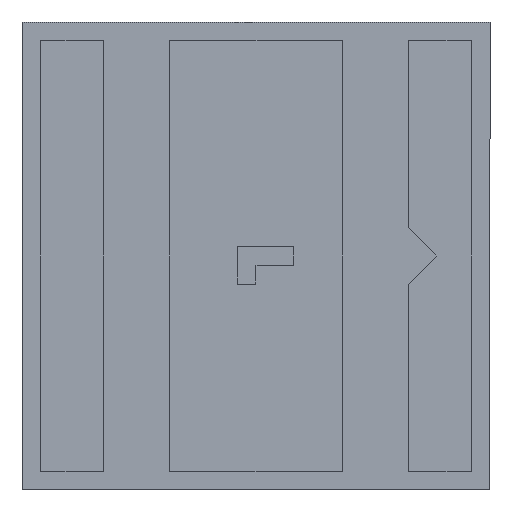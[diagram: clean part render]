
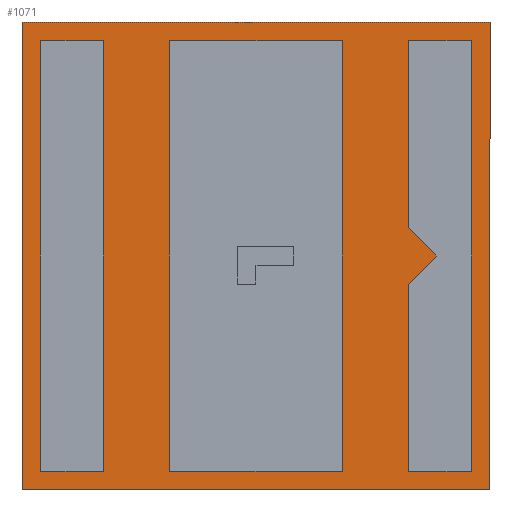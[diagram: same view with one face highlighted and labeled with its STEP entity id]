
A CAD part, front view. The second image highlights one B-rep face of the part: STEP entity #1071.
In plain terms, the highlighted planar face has unit normal (0, -1, 0).
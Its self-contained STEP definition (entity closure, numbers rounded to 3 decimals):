
#2 = EDGE_CURVE ( 'NONE', #236, #282, #96, .T. ) ;
#13 = VECTOR ( 'NONE', #824, 1000. ) ;
#16 = ORIENTED_EDGE ( 'NONE', *, *, #1043, .F. ) ;
#17 = VECTOR ( 'NONE', #942, 1000. ) ;
#18 = DIRECTION ( 'NONE',  ( 0., 0., 1. ) ) ;
#25 = FACE_BOUND ( 'NONE', #155, .T. ) ;
#36 = VERTEX_POINT ( 'NONE', #1123 ) ;
#43 = DIRECTION ( 'NONE',  ( 0., 0., -1. ) ) ;
#45 = ORIENTED_EDGE ( 'NONE', *, *, #116, .F. ) ;
#51 = CARTESIAN_POINT ( 'NONE',  ( -1.15, 0., -1.15 ) ) ;
#53 = EDGE_CURVE ( 'NONE', #674, #869, #243, .T. ) ;
#78 = EDGE_CURVE ( 'NONE', #36, #1203, #422, .T. ) ;
#88 = ORIENTED_EDGE ( 'NONE', *, *, #321, .F. ) ;
#90 = ORIENTED_EDGE ( 'NONE', *, *, #78, .F. ) ;
#91 = ORIENTED_EDGE ( 'NONE', *, *, #1055, .F. ) ;
#96 = LINE ( 'NONE', #280, #1169 ) ;
#116 = EDGE_CURVE ( 'NONE', #339, #709, #436, .T. ) ;
#120 = EDGE_CURVE ( 'NONE', #282, #1083, #954, .T. ) ;
#121 = DIRECTION ( 'NONE',  ( -0.707, 0., -0.707 ) ) ;
#126 = VERTEX_POINT ( 'NONE', #552 ) ;
#130 = VECTOR ( 'NONE', #480, 1000. ) ;
#155 = EDGE_LOOP ( 'NONE', ( #1187, #173, #201, #45 ) ) ;
#170 = ORIENTED_EDGE ( 'NONE', *, *, #910, .F. ) ;
#171 = VECTOR ( 'NONE', #269, 1000. ) ;
#173 = ORIENTED_EDGE ( 'NONE', *, *, #1192, .F. ) ;
#176 = DIRECTION ( 'NONE',  ( 0., 0., -1. ) ) ;
#177 = PLANE ( 'NONE',  #1142 ) ;
#180 = CARTESIAN_POINT ( 'NONE',  ( 0.46, 0., 1.15 ) ) ;
#185 = LINE ( 'NONE', #548, #703 ) ;
#192 = VECTOR ( 'NONE', #865, 1000. ) ;
#201 = ORIENTED_EDGE ( 'NONE', *, *, #526, .F. ) ;
#209 = CARTESIAN_POINT ( 'NONE',  ( 0.815, 0., 1.15 ) ) ;
#236 = VERTEX_POINT ( 'NONE', #209 ) ;
#243 = LINE ( 'NONE', #536, #17 ) ;
#244 = CARTESIAN_POINT ( 'NONE',  ( 0.965, 0., 0. ) ) ;
#258 = EDGE_CURVE ( 'NONE', #727, #518, #1082, .T. ) ;
#269 = DIRECTION ( 'NONE',  ( -1., 0., 0. ) ) ;
#275 = VECTOR ( 'NONE', #18, 1000. ) ;
#280 = CARTESIAN_POINT ( 'NONE',  ( 0.815, 0., 1.15 ) ) ;
#282 = VERTEX_POINT ( 'NONE', #1016 ) ;
#286 = CARTESIAN_POINT ( 'NONE',  ( 0.815, 0., -0.15 ) ) ;
#287 = DIRECTION ( 'NONE',  ( 0., 1., 0. ) ) ;
#294 = CARTESIAN_POINT ( 'NONE',  ( 0.815, 0., -1.15 ) ) ;
#298 = VERTEX_POINT ( 'NONE', #51 ) ;
#300 = FACE_BOUND ( 'NONE', #461, .T. ) ;
#302 = DIRECTION ( 'NONE',  ( -1., 0., 0. ) ) ;
#317 = CARTESIAN_POINT ( 'NONE',  ( 1.15, 0., -1.15 ) ) ;
#318 = VECTOR ( 'NONE', #121, 1000. ) ;
#321 = EDGE_CURVE ( 'NONE', #1054, #727, #439, .T. ) ;
#330 = LINE ( 'NONE', #1066, #1241 ) ;
#339 = VERTEX_POINT ( 'NONE', #515 ) ;
#352 = ORIENTED_EDGE ( 'NONE', *, *, #822, .F. ) ;
#356 = ORIENTED_EDGE ( 'NONE', *, *, #2, .F. ) ;
#359 = DIRECTION ( 'NONE',  ( 0., 0., 1. ) ) ;
#366 = CARTESIAN_POINT ( 'NONE',  ( -1.25, 0., -1.25 ) ) ;
#386 = LINE ( 'NONE', #833, #542 ) ;
#390 = CARTESIAN_POINT ( 'NONE',  ( 0.46, 0., 1.15 ) ) ;
#399 = VECTOR ( 'NONE', #481, 1000. ) ;
#401 = VECTOR ( 'NONE', #936, 1000. ) ;
#414 = CARTESIAN_POINT ( 'NONE',  ( 0.815, 0., -0.15 ) ) ;
#419 = DIRECTION ( 'NONE',  ( 1., 0., 0. ) ) ;
#422 = LINE ( 'NONE', #1037, #893 ) ;
#430 = FACE_BOUND ( 'NONE', #782, .T. ) ;
#436 = LINE ( 'NONE', #663, #192 ) ;
#439 = LINE ( 'NONE', #1202, #617 ) ;
#442 = CARTESIAN_POINT ( 'NONE',  ( 1.15, 0., 1.15 ) ) ;
#449 = CARTESIAN_POINT ( 'NONE',  ( -0.46, 0., -1.15 ) ) ;
#452 = DIRECTION ( 'NONE',  ( 0., 0., 1. ) ) ;
#459 = DIRECTION ( 'NONE',  ( 0., 0., -1. ) ) ;
#461 = EDGE_LOOP ( 'NONE', ( #90, #559, #1128, #91 ) ) ;
#467 = EDGE_CURVE ( 'NONE', #601, #36, #695, .T. ) ;
#470 = CARTESIAN_POINT ( 'NONE',  ( 0.46, 0., -1.15 ) ) ;
#480 = DIRECTION ( 'NONE',  ( 0.707, 0., -0.707 ) ) ;
#481 = DIRECTION ( 'NONE',  ( 0., 0., 1. ) ) ;
#508 = VECTOR ( 'NONE', #419, 1000. ) ;
#515 = CARTESIAN_POINT ( 'NONE',  ( -0.815, 0., 1.15 ) ) ;
#518 = VERTEX_POINT ( 'NONE', #366 ) ;
#526 = EDGE_CURVE ( 'NONE', #709, #298, #1189, .T. ) ;
#536 = CARTESIAN_POINT ( 'NONE',  ( 0.815, 0., -1.15 ) ) ;
#542 = VECTOR ( 'NONE', #452, 1000. ) ;
#548 = CARTESIAN_POINT ( 'NONE',  ( -1.25, 0., -1.25 ) ) ;
#552 = CARTESIAN_POINT ( 'NONE',  ( -0.815, 0., -1.15 ) ) ;
#559 = ORIENTED_EDGE ( 'NONE', *, *, #467, .F. ) ;
#571 = ORIENTED_EDGE ( 'NONE', *, *, #997, .F. ) ;
#576 = CARTESIAN_POINT ( 'NONE',  ( -1.25, 0., -1.25 ) ) ;
#588 = LINE ( 'NONE', #414, #1204 ) ;
#599 = LINE ( 'NONE', #244, #318 ) ;
#601 = VERTEX_POINT ( 'NONE', #180 ) ;
#617 = VECTOR ( 'NONE', #820, 1000. ) ;
#635 = VERTEX_POINT ( 'NONE', #643 ) ;
#643 = CARTESIAN_POINT ( 'NONE',  ( 1.15, 0., 1.15 ) ) ;
#650 = CARTESIAN_POINT ( 'NONE',  ( 0., 0., 0. ) ) ;
#663 = CARTESIAN_POINT ( 'NONE',  ( -0.815, 0., 1.15 ) ) ;
#664 = EDGE_CURVE ( 'NONE', #693, #601, #720, .T. ) ;
#674 = VERTEX_POINT ( 'NONE', #294 ) ;
#675 = LINE ( 'NONE', #449, #401 ) ;
#691 = FACE_OUTER_BOUND ( 'NONE', #947, .T. ) ;
#693 = VERTEX_POINT ( 'NONE', #470 ) ;
#695 = LINE ( 'NONE', #743, #13 ) ;
#703 = VECTOR ( 'NONE', #1238, 1000. ) ;
#709 = VERTEX_POINT ( 'NONE', #1154 ) ;
#720 = LINE ( 'NONE', #390, #399 ) ;
#727 = VERTEX_POINT ( 'NONE', #1171 ) ;
#738 = LINE ( 'NONE', #1084, #508 ) ;
#743 = CARTESIAN_POINT ( 'NONE',  ( -0.46, 0., 1.15 ) ) ;
#752 = DIRECTION ( 'NONE',  ( 0., 0., -1. ) ) ;
#754 = VECTOR ( 'NONE', #176, 1000. ) ;
#764 = VERTEX_POINT ( 'NONE', #286 ) ;
#782 = EDGE_LOOP ( 'NONE', ( #571, #352, #1068, #356, #926, #16, #1168 ) ) ;
#786 = VERTEX_POINT ( 'NONE', #795 ) ;
#795 = CARTESIAN_POINT ( 'NONE',  ( -1.25, 0., 1.25 ) ) ;
#816 = LINE ( 'NONE', #442, #171 ) ;
#820 = DIRECTION ( 'NONE',  ( 0., 0., -1. ) ) ;
#822 = EDGE_CURVE ( 'NONE', #1083, #764, #599, .T. ) ;
#824 = DIRECTION ( 'NONE',  ( -1., 0., 0. ) ) ;
#833 = CARTESIAN_POINT ( 'NONE',  ( 1.15, 0., -1.15 ) ) ;
#841 = CARTESIAN_POINT ( 'NONE',  ( 1.25, 0., 1.25 ) ) ;
#851 = CARTESIAN_POINT ( 'NONE',  ( -1.15, 0., 1.15 ) ) ;
#865 = DIRECTION ( 'NONE',  ( -1., 0., 0. ) ) ;
#869 = VERTEX_POINT ( 'NONE', #317 ) ;
#871 = ORIENTED_EDGE ( 'NONE', *, *, #1115, .F. ) ;
#876 = VECTOR ( 'NONE', #302, 1000. ) ;
#893 = VECTOR ( 'NONE', #752, 1000. ) ;
#904 = ORIENTED_EDGE ( 'NONE', *, *, #258, .F. ) ;
#910 = EDGE_CURVE ( 'NONE', #786, #1054, #738, .T. ) ;
#926 = ORIENTED_EDGE ( 'NONE', *, *, #1010, .F. ) ;
#936 = DIRECTION ( 'NONE',  ( 1., 0., 0. ) ) ;
#942 = DIRECTION ( 'NONE',  ( 1., 0., 0. ) ) ;
#947 = EDGE_LOOP ( 'NONE', ( #871, #904, #88, #170 ) ) ;
#954 = LINE ( 'NONE', #1156, #130 ) ;
#973 = CARTESIAN_POINT ( 'NONE',  ( -0.815, 0., 1.15 ) ) ;
#997 = EDGE_CURVE ( 'NONE', #764, #674, #588, .T. ) ;
#1010 = EDGE_CURVE ( 'NONE', #635, #236, #816, .T. ) ;
#1016 = CARTESIAN_POINT ( 'NONE',  ( 0.815, 0., 0.15 ) ) ;
#1037 = CARTESIAN_POINT ( 'NONE',  ( -0.46, 0., 1.15 ) ) ;
#1043 = EDGE_CURVE ( 'NONE', #869, #635, #386, .T. ) ;
#1054 = VERTEX_POINT ( 'NONE', #841 ) ;
#1055 = EDGE_CURVE ( 'NONE', #1203, #693, #675, .T. ) ;
#1066 = CARTESIAN_POINT ( 'NONE',  ( -1.15, 0., -1.15 ) ) ;
#1068 = ORIENTED_EDGE ( 'NONE', *, *, #120, .F. ) ;
#1071 = ADVANCED_FACE ( 'NONE', ( #25, #691, #430, #300 ), #177, .F. ) ;
#1082 = LINE ( 'NONE', #576, #876 ) ;
#1083 = VERTEX_POINT ( 'NONE', #1132 ) ;
#1084 = CARTESIAN_POINT ( 'NONE',  ( -1.25, 0., 1.25 ) ) ;
#1115 = EDGE_CURVE ( 'NONE', #518, #786, #185, .T. ) ;
#1123 = CARTESIAN_POINT ( 'NONE',  ( -0.46, 0., 1.15 ) ) ;
#1126 = LINE ( 'NONE', #973, #275 ) ;
#1128 = ORIENTED_EDGE ( 'NONE', *, *, #664, .F. ) ;
#1132 = CARTESIAN_POINT ( 'NONE',  ( 0.965, 0., 0. ) ) ;
#1142 = AXIS2_PLACEMENT_3D ( 'NONE', #650, #287, #359 ) ;
#1154 = CARTESIAN_POINT ( 'NONE',  ( -1.15, 0., 1.15 ) ) ;
#1156 = CARTESIAN_POINT ( 'NONE',  ( 0.815, 0., 0.15 ) ) ;
#1159 = CARTESIAN_POINT ( 'NONE',  ( -0.46, 0., -1.15 ) ) ;
#1168 = ORIENTED_EDGE ( 'NONE', *, *, #53, .F. ) ;
#1169 = VECTOR ( 'NONE', #459, 1000. ) ;
#1171 = CARTESIAN_POINT ( 'NONE',  ( 1.25, 0., -1.25 ) ) ;
#1177 = DIRECTION ( 'NONE',  ( 1., 0., 0. ) ) ;
#1187 = ORIENTED_EDGE ( 'NONE', *, *, #1246, .F. ) ;
#1189 = LINE ( 'NONE', #851, #754 ) ;
#1192 = EDGE_CURVE ( 'NONE', #298, #126, #330, .T. ) ;
#1202 = CARTESIAN_POINT ( 'NONE',  ( 1.25, 0., -1.25 ) ) ;
#1203 = VERTEX_POINT ( 'NONE', #1159 ) ;
#1204 = VECTOR ( 'NONE', #43, 1000. ) ;
#1238 = DIRECTION ( 'NONE',  ( 0., 0., 1. ) ) ;
#1241 = VECTOR ( 'NONE', #1177, 1000. ) ;
#1246 = EDGE_CURVE ( 'NONE', #126, #339, #1126, .T. ) ;
